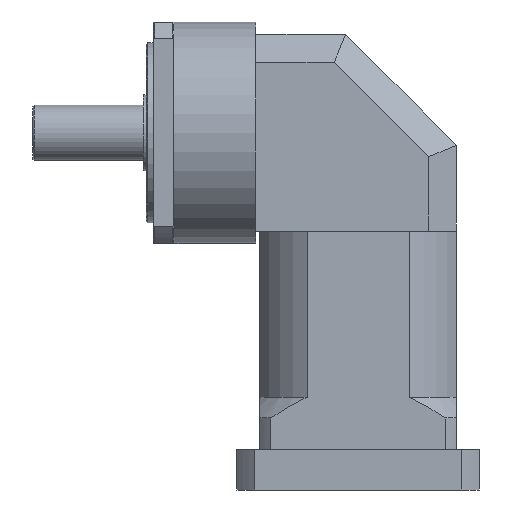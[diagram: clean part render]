
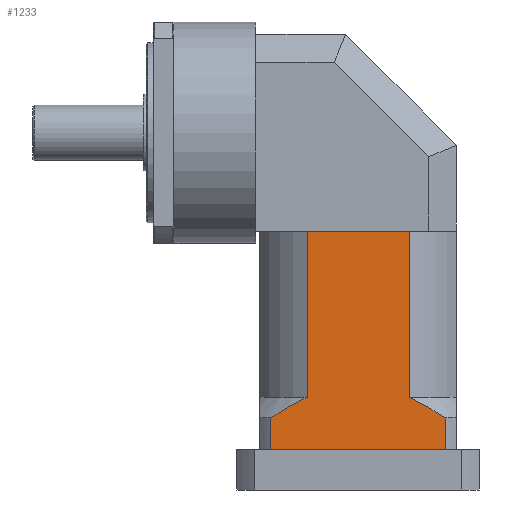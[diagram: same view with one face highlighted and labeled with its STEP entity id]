
A CAD part, front view. The second image highlights one B-rep face of the part: STEP entity #1233.
In plain terms, the highlighted planar face has unit normal (0, -1, 0) as drawn and (0, 0, 1) by its records, which use the part's own axes.
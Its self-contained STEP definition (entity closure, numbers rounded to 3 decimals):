
#40 = CARTESIAN_POINT ( 'NONE',  ( -45.902, -124.471, 71. ) ) ;
#159 = CARTESIAN_POINT ( 'NONE',  ( 63.119, -158., 71. ) ) ;
#219 = LINE ( 'NONE', #4438, #3793 ) ;
#367 = PLANE ( 'NONE',  #613 ) ;
#403 = LINE ( 'NONE', #4622, #1455 ) ;
#457 = CARTESIAN_POINT ( 'NONE',  ( 48.126, -125.755, 71. ) ) ;
#509 = CARTESIAN_POINT ( 'NONE',  ( 36.865, 0., 71. ) ) ;
#525 = CARTESIAN_POINT ( 'NONE',  ( -54.63, -129.514, 71. ) ) ;
#613 = AXIS2_PLACEMENT_3D ( 'NONE', #3151, #2658, #2171 ) ;
#776 = VERTEX_POINT ( 'NONE', #3383 ) ;
#832 = ORIENTED_EDGE ( 'NONE', *, *, #2921, .T. ) ;
#873 = EDGE_CURVE ( 'NONE', #3647, #3559, #2926, .T. ) ;
#890 = DIRECTION ( 'NONE',  ( 1., 0., 0. ) ) ;
#939 = CARTESIAN_POINT ( 'NONE',  ( 45.913, -124.53, 71. ) ) ;
#953 = VECTOR ( 'NONE', #2909, 1000. ) ;
#997 = CARTESIAN_POINT ( 'NONE',  ( -58.905, -132.2, 71. ) ) ;
#1071 = EDGE_LOOP ( 'NONE', ( #4669, #2410, #2095, #4579, #832, #4486, #1234, #2510 ) ) ;
#1092 = FACE_OUTER_BOUND ( 'NONE', #1071, .T. ) ;
#1161 = VERTEX_POINT ( 'NONE', #3128 ) ;
#1233 = ADVANCED_FACE ( 'NONE', ( #1092 ), #367, .T. ) ;
#1234 = ORIENTED_EDGE ( 'NONE', *, *, #2320, .T. ) ;
#1345 = CARTESIAN_POINT ( 'NONE',  ( 63.119, -135., 71. ) ) ;
#1364 = CARTESIAN_POINT ( 'NONE',  ( 71., -158., 71. ) ) ;
#1408 = CARTESIAN_POINT ( 'NONE',  ( 41.421, -122.177, 71. ) ) ;
#1455 = VECTOR ( 'NONE', #4144, 1000. ) ;
#1531 = CARTESIAN_POINT ( 'NONE',  ( -63.119, -135., 71. ) ) ;
#1622 = VECTOR ( 'NONE', #1944, 1000. ) ;
#1887 = CARTESIAN_POINT ( 'NONE',  ( 39.155, -121.055, 71. ) ) ;
#1944 = DIRECTION ( 'NONE',  ( 0., 1., 0. ) ) ;
#1967 = VECTOR ( 'NONE', #2294, 1000. ) ;
#2054 = VECTOR ( 'NONE', #890, 1000. ) ;
#2095 = ORIENTED_EDGE ( 'NONE', *, *, #4384, .T. ) ;
#2171 = DIRECTION ( 'NONE',  ( 0., -1., 0. ) ) ;
#2294 = DIRECTION ( 'NONE',  ( 0., 1., 0. ) ) ;
#2320 = EDGE_CURVE ( 'NONE', #2325, #3850, #219, .T. ) ;
#2325 = VERTEX_POINT ( 'NONE', #1531 ) ;
#2385 = CARTESIAN_POINT ( 'NONE',  ( 36.865, -120., 71. ) ) ;
#2410 = ORIENTED_EDGE ( 'NONE', *, *, #4222, .F. ) ;
#2443 = CARTESIAN_POINT ( 'NONE',  ( 63.119, 0., 71. ) ) ;
#2510 = ORIENTED_EDGE ( 'NONE', *, *, #4055, .T. ) ;
#2635 = VERTEX_POINT ( 'NONE', #509 ) ;
#2658 = DIRECTION ( 'NONE',  ( 0., 0., 1. ) ) ;
#2780 = CARTESIAN_POINT ( 'NONE',  ( 36.865, 0., 71. ) ) ;
#2878 = CARTESIAN_POINT ( 'NONE',  ( -36.865, 0., 71. ) ) ;
#2909 = DIRECTION ( 'NONE',  ( 1., 0., 0. ) ) ;
#2921 = EDGE_CURVE ( 'NONE', #3434, #1161, #403, .T. ) ;
#2926 = LINE ( 'NONE', #2443, #1622 ) ;
#3059 = EDGE_CURVE ( 'NONE', #3434, #2635, #3868, .T. ) ;
#3128 = CARTESIAN_POINT ( 'NONE',  ( -36.865, -120., 71. ) ) ;
#3151 = CARTESIAN_POINT ( 'NONE',  ( 71., -942.167, 71. ) ) ;
#3270 = LINE ( 'NONE', #2780, #1967 ) ;
#3276 = CARTESIAN_POINT ( 'NONE',  ( -63.119, -158., 71. ) ) ;
#3308 = LINE ( 'NONE', #1364, #2054 ) ;
#3314 = B_SPLINE_CURVE_WITH_KNOTS ( 'NONE', 3,
 ( #3886, #997, #525, #40, #4260, #3771 ),
 .UNSPECIFIED., .F., .F.,
 ( 4, 2, 4 ),
 ( 0.066, 0.081, 0.097 ),
 .UNSPECIFIED. ) ;
#3383 = CARTESIAN_POINT ( 'NONE',  ( 36.865, -120., 71. ) ) ;
#3399 = CARTESIAN_POINT ( 'NONE',  ( 71., 0., 71. ) ) ;
#3434 = VERTEX_POINT ( 'NONE', #2878 ) ;
#3559 = VERTEX_POINT ( 'NONE', #1345 ) ;
#3647 = VERTEX_POINT ( 'NONE', #159 ) ;
#3707 = CARTESIAN_POINT ( 'NONE',  ( 63.119, -135., 71. ) ) ;
#3771 = CARTESIAN_POINT ( 'NONE',  ( -36.865, -120., 71. ) ) ;
#3793 = VECTOR ( 'NONE', #3946, 1000. ) ;
#3850 = VERTEX_POINT ( 'NONE', #3276 ) ;
#3868 = LINE ( 'NONE', #3399, #953 ) ;
#3886 = CARTESIAN_POINT ( 'NONE',  ( -63.119, -135., 71. ) ) ;
#3946 = DIRECTION ( 'NONE',  ( 0., -1., 0. ) ) ;
#3986 = B_SPLINE_CURVE_WITH_KNOTS ( 'NONE', 3,
 ( #2385, #1887, #1408, #939, #457, #4671, #4198, #3707 ),
 .UNSPECIFIED., .F., .F.,
 ( 4, 2, 2, 4 ),
 ( 0.085, 0.092, 0.1, 0.115 ),
 .UNSPECIFIED. ) ;
#4031 = EDGE_CURVE ( 'NONE', #2325, #1161, #3314, .T. ) ;
#4055 = EDGE_CURVE ( 'NONE', #3850, #3647, #3308, .T. ) ;
#4144 = DIRECTION ( 'NONE',  ( 0., -1., 0. ) ) ;
#4198 = CARTESIAN_POINT ( 'NONE',  ( 58.935, -132.22, 71. ) ) ;
#4222 = EDGE_CURVE ( 'NONE', #776, #3559, #3986, .T. ) ;
#4260 = CARTESIAN_POINT ( 'NONE',  ( -41.45, -122.113, 71. ) ) ;
#4384 = EDGE_CURVE ( 'NONE', #776, #2635, #3270, .T. ) ;
#4438 = CARTESIAN_POINT ( 'NONE',  ( -63.119, 0., 71. ) ) ;
#4486 = ORIENTED_EDGE ( 'NONE', *, *, #4031, .F. ) ;
#4579 = ORIENTED_EDGE ( 'NONE', *, *, #3059, .F. ) ;
#4622 = CARTESIAN_POINT ( 'NONE',  ( -36.865, 0., 71. ) ) ;
#4669 = ORIENTED_EDGE ( 'NONE', *, *, #873, .T. ) ;
#4671 = CARTESIAN_POINT ( 'NONE',  ( 54.678, -129.543, 71. ) ) ;
